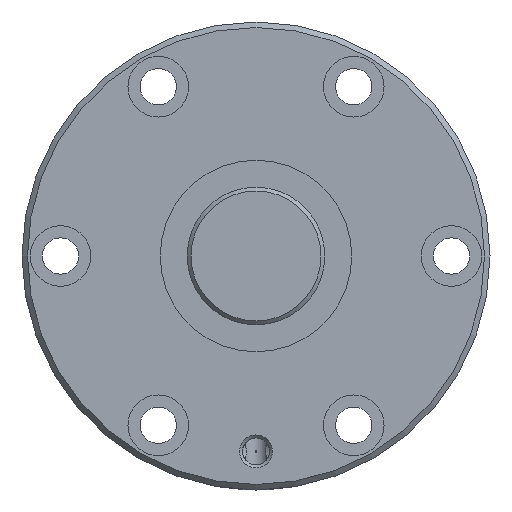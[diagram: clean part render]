
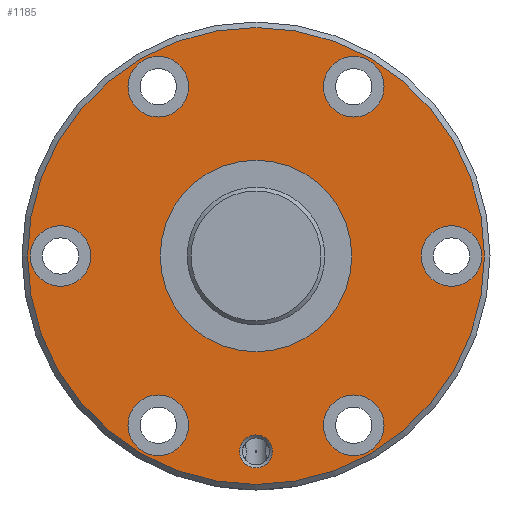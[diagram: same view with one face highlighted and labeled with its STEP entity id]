
A CAD part, left-side view. The second image highlights one B-rep face of the part: STEP entity #1185.
In plain terms, the highlighted planar face has unit normal (-1, 0, 0).
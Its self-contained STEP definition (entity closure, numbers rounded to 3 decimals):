
#258=ORIENTED_EDGE('',*,*,#535,.T.);
#259=ORIENTED_EDGE('',*,*,#536,.T.);
#260=ORIENTED_EDGE('',*,*,#537,.T.);
#261=ORIENTED_EDGE('',*,*,#538,.T.);
#262=ORIENTED_EDGE('',*,*,#539,.T.);
#263=ORIENTED_EDGE('',*,*,#540,.T.);
#264=ORIENTED_EDGE('',*,*,#541,.T.);
#265=ORIENTED_EDGE('',*,*,#542,.T.);
#266=ORIENTED_EDGE('',*,*,#534,.F.);
#534=EDGE_CURVE('',#673,#673,#744,.T.);
#535=EDGE_CURVE('',#674,#674,#745,.T.);
#536=EDGE_CURVE('',#675,#675,#746,.F.);
#537=EDGE_CURVE('',#676,#676,#747,.T.);
#538=EDGE_CURVE('',#677,#677,#748,.T.);
#539=EDGE_CURVE('',#678,#678,#749,.T.);
#540=EDGE_CURVE('',#679,#679,#750,.T.);
#541=EDGE_CURVE('',#680,#680,#751,.T.);
#542=EDGE_CURVE('',#681,#681,#752,.T.);
#673=VERTEX_POINT('',#2138);
#674=VERTEX_POINT('',#2141);
#675=VERTEX_POINT('',#2143);
#676=VERTEX_POINT('',#2145);
#677=VERTEX_POINT('',#2147);
#678=VERTEX_POINT('',#2149);
#679=VERTEX_POINT('',#2151);
#680=VERTEX_POINT('',#2153);
#681=VERTEX_POINT('',#2155);
#744=CIRCLE('',#1320,41.5);
#745=CIRCLE('',#1322,17.4);
#746=CIRCLE('',#1323,5.5);
#747=CIRCLE('',#1324,3.);
#748=CIRCLE('',#1325,5.5);
#749=CIRCLE('',#1326,5.5);
#750=CIRCLE('',#1327,5.5);
#751=CIRCLE('',#1328,5.5);
#752=CIRCLE('',#1329,5.5);
#842=EDGE_LOOP('',(#258));
#843=EDGE_LOOP('',(#259));
#844=EDGE_LOOP('',(#260));
#845=EDGE_LOOP('',(#261));
#846=EDGE_LOOP('',(#262));
#847=EDGE_LOOP('',(#263));
#848=EDGE_LOOP('',(#264));
#849=EDGE_LOOP('',(#265));
#850=EDGE_LOOP('',(#266));
#998=FACE_BOUND('',#842,.T.);
#999=FACE_BOUND('',#843,.T.);
#1000=FACE_BOUND('',#844,.T.);
#1001=FACE_BOUND('',#845,.T.);
#1002=FACE_BOUND('',#846,.T.);
#1003=FACE_BOUND('',#847,.T.);
#1004=FACE_BOUND('',#848,.T.);
#1005=FACE_BOUND('',#849,.T.);
#1006=FACE_BOUND('',#850,.T.);
#1134=PLANE('',#1321);
#1185=ADVANCED_FACE('',(#998,#999,#1000,#1001,#1002,#1003,#1004,#1005,#1006),
#1134,.T.);
#1320=AXIS2_PLACEMENT_3D('',#2137,#1578,#1579);
#1321=AXIS2_PLACEMENT_3D('',#2139,#1580,#1581);
#1322=AXIS2_PLACEMENT_3D('',#2140,#1582,#1583);
#1323=AXIS2_PLACEMENT_3D('',#2142,#1584,#1585);
#1324=AXIS2_PLACEMENT_3D('',#2144,#1586,#1587);
#1325=AXIS2_PLACEMENT_3D('',#2146,#1588,#1589);
#1326=AXIS2_PLACEMENT_3D('',#2148,#1590,#1591);
#1327=AXIS2_PLACEMENT_3D('',#2150,#1592,#1593);
#1328=AXIS2_PLACEMENT_3D('',#2152,#1594,#1595);
#1329=AXIS2_PLACEMENT_3D('',#2154,#1596,#1597);
#1578=DIRECTION('',(1.,0.,0.));
#1579=DIRECTION('',(0.,0.,-1.));
#1580=DIRECTION('',(-1.,0.,0.));
#1581=DIRECTION('',(0.,0.,1.));
#1582=DIRECTION('',(1.,0.,0.));
#1583=DIRECTION('',(0.,0.,-1.));
#1584=DIRECTION('',(-1.,0.,0.));
#1585=DIRECTION('',(0.,0.,1.));
#1586=DIRECTION('',(1.,0.,0.));
#1587=DIRECTION('',(0.,0.,-1.));
#1588=DIRECTION('',(1.,0.,0.));
#1589=DIRECTION('',(0.,0.,-1.));
#1590=DIRECTION('',(1.,0.,0.));
#1591=DIRECTION('',(0.,0.,-1.));
#1592=DIRECTION('',(1.,0.,0.));
#1593=DIRECTION('',(0.,0.,-1.));
#1594=DIRECTION('',(1.,0.,0.));
#1595=DIRECTION('',(0.,0.,-1.));
#1596=DIRECTION('',(1.,0.,0.));
#1597=DIRECTION('',(0.,0.,-1.));
#2137=CARTESIAN_POINT('',(0.,0.,0.));
#2138=CARTESIAN_POINT('',(0.,0.,-41.5));
#2139=CARTESIAN_POINT('',(0.,41.5,0.));
#2140=CARTESIAN_POINT('',(0.,0.,0.));
#2141=CARTESIAN_POINT('',(0.,0.,-17.4));
#2142=CARTESIAN_POINT('',(0.,35.5,0.));
#2143=CARTESIAN_POINT('',(0.,35.5,5.5));
#2144=CARTESIAN_POINT('',(0.,0.,-35.5));
#2145=CARTESIAN_POINT('',(0.,0.,-38.5));
#2146=CARTESIAN_POINT('',(0.,17.75,30.744));
#2147=CARTESIAN_POINT('',(0.,17.75,25.244));
#2148=CARTESIAN_POINT('',(0.,-17.75,-30.744));
#2149=CARTESIAN_POINT('',(0.,-17.75,-36.244));
#2150=CARTESIAN_POINT('',(0.,-17.75,30.744));
#2151=CARTESIAN_POINT('',(0.,-17.75,25.244));
#2152=CARTESIAN_POINT('',(0.,17.75,-30.744));
#2153=CARTESIAN_POINT('',(0.,17.75,-36.244));
#2154=CARTESIAN_POINT('',(0.,-35.5,0.));
#2155=CARTESIAN_POINT('',(0.,-35.5,-5.5));
